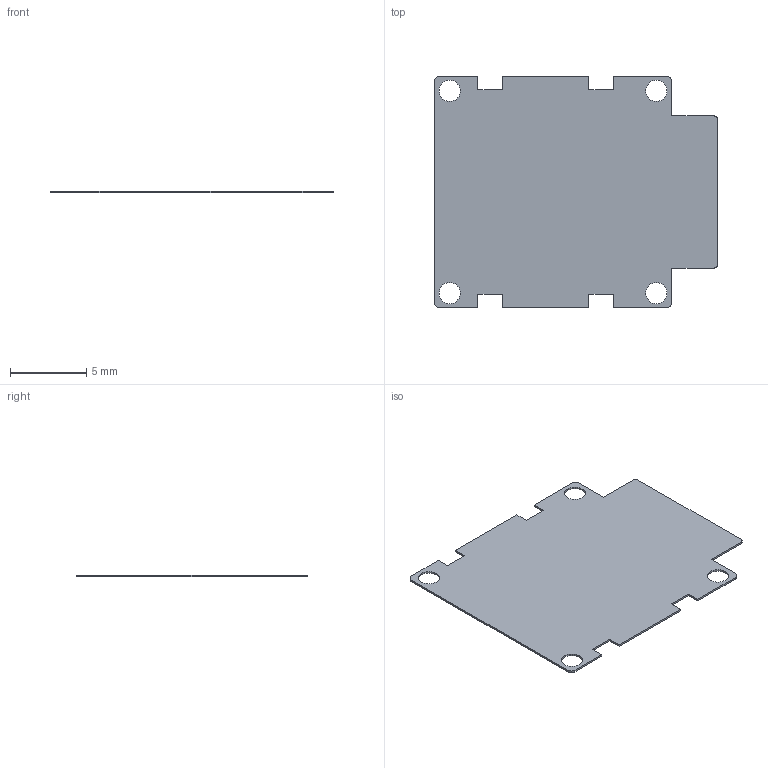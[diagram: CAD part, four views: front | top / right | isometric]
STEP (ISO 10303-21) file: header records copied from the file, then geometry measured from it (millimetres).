
FILE_DESCRIPTION(('Open CASCADE Model'),'2;1');
FILE_NAME('Open CASCADE Shape Model','2026-11-23T03:42:15',('Author'),( 'Open CASCADE'),'Open CASCADE STEP processor 7.9','Open CASCADE 7.9' ,'Unknown');
FILE_SCHEMA(('AUTOMOTIVE_DESIGN { 1 0 10303 214 1 1 1 1 }'));
Length unit declared in the file: millimetre
Products named in the file (1): Open CASCADE STEP translator 7.9 3
Bounding box: 18.6 x 15.2 x 0.13 mm (x, y, z)
Volume: 32.4 mm3; surface area: 522.2 mm2
Topology: 1 solids, 1 shells, 78 faces, 228 edges, 152 vertices
Faces by surface type: plane 74, cylinder 4
Full cylindrical faces by diameter (mm): 1.4 x4
Entity records: 5554 total; most frequent: CARTESIAN_POINT 963, DIRECTION 842, LINE 668, VECTOR 668, ORIENTED_EDGE 456, PCURVE 456, DEFINITIONAL_REPRESENTATION 456, EDGE_CURVE 228
